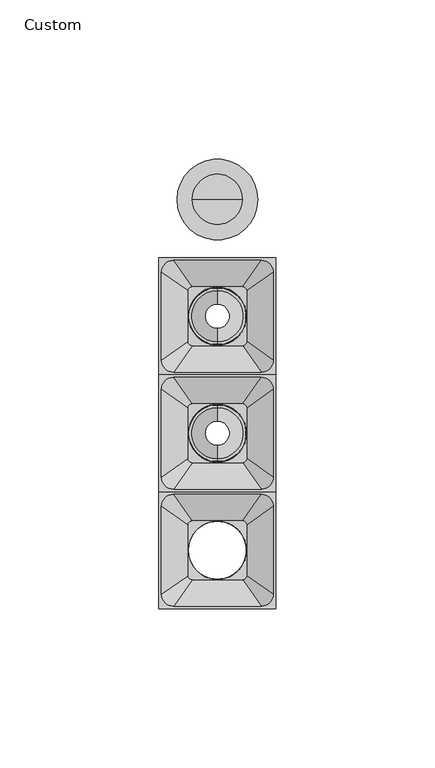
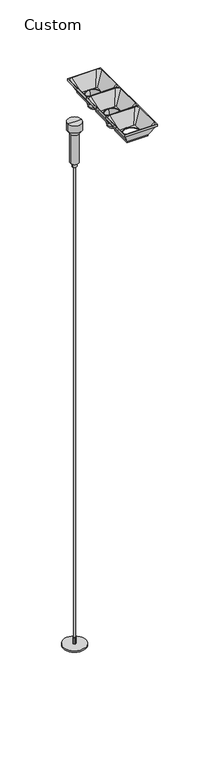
"""IFC4 building model written with IfcOpenShell, lengths in millimetres: light fixture geometry, Lighting-Pendant-Axis-Sculpt-Corner-MikroLite : Custom."""

from ifc_helpers import new_model, si_unit, point, frame, origin, origin_with_axes, origin_2d, place, context, project, spatial, polyline, circle_curve, ellipse_curve, trimmed, segment, composite_curve, outline, extrude, source, transform, mapped, element, save
from ifc_brep_helpers import plane_surface, cylinder_surface, revolved_surface, spline_surface, advanced_brep


def custom_41f16287(model_context):
    return source(origin(), model_context, "Body", "SolidModel", [
        advanced_brep(
        [(-4.5719999, 0.0, 604.4810805), (4.5719999, 0.0, 604.4810805), (4.5719999, 0.0, 570.5474987), (-4.5719999, 0.0, 570.5474987), (-7.8962633, 0.0, 609.6), (7.8962633, 0.0, 609.6), (-2.2859999, 0.0, 565.4674991), (2.2859999, 0.0, 565.4674991), (0.0, 0.0, 565.4674991), (-2.2859999, 0.0, 570.5474987), (2.2859999, 0.0, 570.5474987), (-7.8962633, 0.0, 618.0455013), (7.8962633, 0.0, 618.0455013), (0.0, 0.0, 618.0455013)],
        [
            (0, 1, circle_curve(frame((0.0, 0.0, 604.4810805), z_axis=(0.0, 0.0, -1.0), x_axis=(1.0, 0.0, 0.0)), 4.5719999)),
            (1, 2),
            (2, 3, circle_curve(frame((0.0, 0.0, 570.5474987), z_axis=(0.0, 0.0, 1.0), x_axis=(1.0, 0.0, 0.0)), 4.5719999)),
            (3, 0),
            (1, 0, circle_curve(frame((0.0, 0.0, 604.4810805), z_axis=(0.0, 0.0, -1.0), x_axis=(1.0, 0.0, 0.0)), 4.5719999)),
            (3, 2, circle_curve(frame((0.0, 0.0, 570.5474987), z_axis=(0.0, 0.0, 1.0), x_axis=(1.0, 0.0, 0.0)), 4.5719999)),
            (4, 5, circle_curve(frame((0.0, 0.0, 609.6), z_axis=(0.0, 0.0, -1.0), x_axis=(1.0, 0.0, 0.0)), 7.8962633)),
            (5, 1),
            (0, 4),
            (5, 4, circle_curve(frame((0.0, 0.0, 609.6), z_axis=(0.0, 0.0, -1.0), x_axis=(1.0, 0.0, 0.0)), 7.8962633)),
            (6, 7, circle_curve(frame((0.0, 0.0, 565.4674991), z_axis=(0.0, 0.0, -1.0), x_axis=(1.0, 0.0, 0.0)), 2.2859999)),
            (7, 8),
            (8, 6),
            (7, 6, circle_curve(frame((0.0, 0.0, 565.4674991), z_axis=(0.0, 0.0, -1.0), x_axis=(1.0, 0.0, 0.0)), 2.2859999)),
            (9, 10, circle_curve(frame((0.0, 0.0, 570.5474987), z_axis=(0.0, 0.0, -1.0), x_axis=(1.0, 0.0, 0.0)), 2.2859999)),
            (10, 7),
            (6, 9),
            (10, 9, circle_curve(frame((0.0, 0.0, 570.5474987), z_axis=(0.0, 0.0, -1.0), x_axis=(1.0, 0.0, 0.0)), 2.2859999)),
            (2, 10),
            (9, 3),
            (11, 12, circle_curve(frame((0.0, 0.0, 618.0455013), z_axis=(0.0, 0.0, -1.0), x_axis=(1.0, 0.0, 0.0)), 7.8962633)),
            (12, 5),
            (4, 11),
            (12, 11, circle_curve(frame((0.0, 0.0, 618.0455013), z_axis=(0.0, 0.0, -1.0), x_axis=(1.0, 0.0, 0.0)), 7.8962633)),
            (13, 12),
            (11, 13),
        ],
        [
            cylinder_surface(frame((0.0, 0.0, 2761.4581012), z_axis=(0.0, 0.0, 1.0), x_axis=(1.0, 0.0, 0.0)), 4.5719999),
            revolved_surface(polyline([(4.5719999, 0.0, 604.4810805), (7.8962633, 0.0, 609.6)]), (0.0, 0.0, 2761.4581012), (0.0, 0.0, 1.0)),
            plane_surface(frame((0.0, 0.0, 565.4674991), z_axis=(0.0, 0.0, -1.0), x_axis=(1.0, 0.0, 0.0))),
            cylinder_surface(frame((0.0, 0.0, 2761.4581012), z_axis=(0.0, 0.0, 1.0), x_axis=(1.0, 0.0, 0.0)), 2.2859999),
            plane_surface(frame((0.0, 0.0, 570.5474987), z_axis=(0.0, 0.0, -1.0), x_axis=(1.0, 0.0, 0.0))),
            cylinder_surface(frame((0.0, 0.0, 2761.4581012), z_axis=(0.0, 0.0, 1.0), x_axis=(1.0, 0.0, 0.0)), 7.8962633),
            plane_surface(frame((0.0, 0.0, 618.0455013), z_axis=(0.0, 0.0, 1.0), x_axis=(1.0, 0.0, 0.0))),
        ],
        [
            (0, [[1, 2, 3, 4]]),
            (0, [[5, -4, 6, -2]]),
            (1, [[7, 8, -1, 9]]),
            (1, [[10, -9, -5, -8]]),
            (2, [[11, 12, 13]]),
            (2, [[14, -13, -12]]),
            (3, [[15, 16, -11, 17]]),
            (3, [[18, -17, -14, -16]]),
            (4, [[-3, 19, -15, 20]]),
            (4, [[-6, -20, -18, -19]]),
            (5, [[21, 22, -7, 23]]),
            (5, [[24, -23, -10, -22]]),
            (6, [[25, -21, 26]]),
            (6, [[-26, -24, -25]]),
        ],
    ),
        extrude(outline(composite_curve([segment(trimmed(circle_curve(origin_2d(), 0.79375), [point((-0.79375, 0.0))], [point((0.79375, 0.0))], False, "CARTESIAN"), True, "CONTINUOUS"), segment(trimmed(circle_curve(origin_2d(), 0.79375), [point((0.79375, 0.0))], [point((-0.79375, 0.0))], False, "CARTESIAN"), True, "CONTINUOUS")], self_intersect=False)), origin_with_axes(), (0.0, 0.0, 1.0), 565.4674991),
        extrude(outline(composite_curve([segment(trimmed(circle_curve(origin_2d(), 12.7), [point((-12.7, 0.0))], [point((12.7, 0.0))], False, "CARTESIAN"), True, "CONTINUOUS"), segment(trimmed(circle_curve(origin_2d(), 12.7), [point((12.7, 0.0))], [point((-12.7, 0.0))], False, "CARTESIAN"), True, "CONTINUOUS")], self_intersect=False)), origin_with_axes(), (0.0, 0.0, 1.0), 1.5875),
        extrude(outline(composite_curve([segment(trimmed(circle_curve(origin_2d(), 1.5875), [point((-1.5875, 0.0))], [point((1.5875, 0.0))], False, "CARTESIAN"), True, "CONTINUOUS"), segment(trimmed(circle_curve(origin_2d(), 1.5875), [point((1.5875, 0.0))], [point((-1.5875, 0.0))], False, "CARTESIAN"), True, "CONTINUOUS")], self_intersect=False)), frame((0.0, 0.0, 1.5875), z_axis=(0.0, 0.0, 1.0), x_axis=(1.0, 0.0, 0.0)), (0.0, 0.0, 1.0), 7.9375),
        advanced_brep(
        [(-11.5702329, -62.0897671, 672.4768563), (-11.5702329, -62.0897671, 671.3885205), (-11.5702329, -85.2302329, 671.3885205), (-11.5702329, -85.2302329, 672.4768563), (-17.2355213, -90.8955213, 684.05375), (-17.2355213, -56.4244787, 684.05375), (-18.415, -55.245, 686.59375), (-18.415, -55.245, 684.05375), (-18.415, -92.075, 684.05375), (-18.415, -92.075, 686.59375), (11.5702329, -85.2302329, 671.3885205), (11.5702329, -85.2302329, 672.4768563), (17.2355213, -90.8955213, 684.05375), (18.415, -92.075, 684.05375), (18.415, -92.075, 686.59375), (11.5702329, -62.0897671, 671.3885205), (11.5702329, -62.0897671, 672.4768563), (17.2355213, -56.4244787, 684.05375), (18.415, -55.245, 684.05375), (18.415, -55.245, 686.59375), (-17.5895, -87.4395, 686.59375), (-17.5895, -59.8805, 686.59375), (-13.7795, -56.0705, 686.59375), (13.7795, -56.0705, 686.59375), (17.5895, -59.8805, 686.59375), (17.5895, -87.4395, 686.59375), (13.7795, -91.2495, 686.59375), (-13.7795, -91.2495, 686.59375), (0.0, -64.5153356, 671.3885205), (0.0, -82.8046644, 671.3885205), (-9.2138442, -81.6038442, 672.17925), (-7.9438442, -82.8738442, 672.17925), (0.0, -82.8738442, 672.17925), (-9.2138442, -73.66, 672.17925), (7.9438442, -82.8738442, 672.17925), (9.2138442, -81.6038442, 672.17925), (9.2138442, -73.66, 672.17925), (9.2138442, -65.7161558, 672.17925), (7.9438442, -64.4461558, 672.17925), (0.0, -64.4461558, 672.17925), (-7.9438442, -64.4461558, 672.17925), (-9.2138442, -65.7161558, 672.17925)],
        [
            (0, 1),
            (1, 2),
            (2, 3),
            (3, 0),
            (3, 4),
            (4, 5),
            (5, 0),
            (6, 7),
            (7, 8),
            (8, 9),
            (9, 6),
            (2, 10),
            (10, 11),
            (11, 3),
            (11, 12),
            (12, 4),
            (8, 13),
            (13, 14),
            (14, 9),
            (10, 15),
            (15, 16),
            (16, 11),
            (16, 17),
            (17, 12),
            (13, 18),
            (18, 19),
            (19, 14),
            (0, 16),
            (15, 1),
            (5, 17),
            (7, 18),
            (6, 19),
            (20, 21),
            (21, 22, circle_curve(frame((-13.7795, -59.8805, 686.59375), z_axis=(0.0, 0.0, -1.0), x_axis=(1.0, 0.0, 0.0)), 3.81)),
            (22, 23),
            (23, 24, circle_curve(frame((13.7795, -59.8805, 686.59375), z_axis=(0.0, 0.0, -1.0), x_axis=(1.0, 0.0, 0.0)), 3.81)),
            (24, 25),
            (25, 26, circle_curve(frame((13.7795, -87.4395, 686.59375), z_axis=(0.0, 0.0, -1.0), x_axis=(1.0, 0.0, 0.0)), 3.81)),
            (26, 27),
            (27, 20, circle_curve(frame((-13.7795, -87.4395, 686.59375), z_axis=(0.0, 0.0, -1.0), x_axis=(1.0, 0.0, 0.0)), 3.81)),
            (28, 29, circle_curve(frame((0.0, -73.66, 671.3885205), z_axis=(0.0, 0.0, 1.0), x_axis=(0.0, 1.0, 0.0)), 9.1446644)),
            (29, 28, circle_curve(frame((0.0, -73.66, 671.3885205), z_axis=(0.0, 0.0, 1.0), x_axis=(0.0, 1.0, 0.0)), 9.1446644)),
            (30, 31, circle_curve(frame((-7.9438442, -81.6038442, 672.17925), z_axis=(0.0, 0.0, 1.0), x_axis=(1.0, 0.0, 0.0)), 1.27)),
            (31, 32),
            (32, 33, circle_curve(frame((0.0, -73.66, 672.17925), z_axis=(0.0, 0.0, -1.0), x_axis=(0.0, 1.0, 0.0)), 9.2138442)),
            (33, 30),
            (34, 35, circle_curve(frame((7.9438442, -81.6038442, 672.17925), z_axis=(0.0, 0.0, 1.0), x_axis=(1.0, 0.0, 0.0)), 1.27)),
            (35, 36),
            (36, 32, circle_curve(frame((0.0, -73.66, 672.17925), z_axis=(0.0, 0.0, -1.0), x_axis=(0.0, 1.0, 0.0)), 9.2138442)),
            (32, 34),
            (37, 38, circle_curve(frame((7.9438442, -65.7161558, 672.17925), z_axis=(0.0, 0.0, 1.0), x_axis=(1.0, 0.0, 0.0)), 1.27)),
            (38, 39),
            (39, 36, circle_curve(frame((0.0, -73.66, 672.17925), z_axis=(0.0, 0.0, -1.0), x_axis=(0.0, 1.0, 0.0)), 9.2138442)),
            (36, 37),
            (40, 41, circle_curve(frame((-7.9438442, -65.7161558, 672.17925), z_axis=(0.0, 0.0, 1.0), x_axis=(1.0, 0.0, 0.0)), 1.27)),
            (41, 33),
            (33, 39, circle_curve(frame((0.0, -73.66, 672.17925), z_axis=(0.0, 0.0, -1.0), x_axis=(0.0, 1.0, 0.0)), 9.2138442)),
            (39, 40),
            (20, 30),
            (41, 21),
            (27, 31),
            (26, 34),
            (25, 35),
            (24, 37),
            (23, 38),
            (22, 40),
            (32, 29),
            (28, 39),
        ],
        [
            plane_surface(frame((-11.5702329, -62.0897671, 671.3885205), z_axis=(-1.0, 0.0, 0.0), x_axis=(0.0, -1.0, 0.0))),
            plane_surface(frame((-11.5702329, -62.0897671, 672.4768563), z_axis=(-0.8982167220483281, 0.0, -0.43955286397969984), x_axis=(0.0, -1.0, 0.0))),
            plane_surface(frame((-18.415, -55.245, 684.05375), z_axis=(-1.0, 0.0, 0.0), x_axis=(0.0, -1.0, 0.0))),
            plane_surface(frame((-11.5702329, -85.2302329, 671.3885205), z_axis=(0.0, -1.0, 0.0), x_axis=(1.0, 0.0, 0.0))),
            plane_surface(frame((-11.5702329, -85.2302329, 672.4768563), z_axis=(0.0, -0.8982167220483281, -0.43955286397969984), x_axis=(1.0, 0.0, 0.0))),
            plane_surface(frame((-18.415, -92.075, 684.05375), z_axis=(0.0, -1.0, 0.0), x_axis=(1.0, 0.0, 0.0))),
            plane_surface(frame((11.5702329, -85.2302329, 671.3885205), z_axis=(1.0, 0.0, 0.0), x_axis=(0.0, 1.0, 0.0))),
            plane_surface(frame((11.5702329, -85.2302329, 672.4768563), z_axis=(0.8982167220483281, 0.0, -0.43955286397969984), x_axis=(0.0, 1.0, 0.0))),
            plane_surface(frame((18.415, -92.075, 684.05375), z_axis=(1.0, 0.0, 0.0), x_axis=(0.0, 1.0, 0.0))),
            plane_surface(frame((11.5702329, -62.0897671, 671.3885205), z_axis=(0.0, 1.0, 0.0), x_axis=(-1.0, 0.0, 0.0))),
            plane_surface(frame((11.5702329, -62.0897671, 672.4768563), z_axis=(0.0, 0.8982167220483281, -0.43955286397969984), x_axis=(-1.0, 0.0, 0.0))),
            plane_surface(frame((17.2355213, -56.4244787, 684.05375), z_axis=(0.0, 0.0, -1.0), x_axis=(-1.0, 0.0, 0.0))),
            plane_surface(frame((18.415, -55.245, 684.05375), z_axis=(0.0, 1.0, 0.0), x_axis=(-1.0, 0.0, 0.0))),
            plane_surface(frame((18.415, -55.245, 686.59375), z_axis=(0.0, 0.0, 1.0), x_axis=(-1.0, 0.0, 0.0))),
            plane_surface(frame((0.0, -73.66, 671.3885205), z_axis=(0.0, 0.0, -1.0), x_axis=(-1.0, 0.0, 0.0))),
            plane_surface(frame((0.0, -73.66, 672.17925), z_axis=(0.0, 0.0, 1.0), x_axis=(0.0, -1.0, 0.0))),
            plane_surface(frame((-17.5895, -73.66, 686.59375), z_axis=(0.8646340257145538, 0.0, 0.5024022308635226), x_axis=(0.0, 1.0, 0.0))),
            spline_surface(1, 2, [[(-13.7795, -91.2495, 686.59375), (-17.5895, -91.2495, 686.59375), (-17.5895, -87.4395, 686.59375)], [(-7.9438442, -82.8738442, 672.17925), (-9.213844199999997, -82.8738442, 672.17925), (-9.2138442, -81.6038442, 672.17925)]], [2, 2], [3, 3], [0.0, 1.0], [0.0, 1.0], weights=[[1.0, 0.7071067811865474, 1.0], [1.0, 0.7071067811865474, 1.0]]),
            plane_surface(frame((0.0, -91.2495, 686.59375), z_axis=(0.0, 0.8646340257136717, 0.5024022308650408), x_axis=(-1.0, 0.0, 0.0))),
            spline_surface(1, 2, [[(17.5895, -87.4395, 686.59375), (17.5895, -91.2495, 686.59375), (13.7795, -91.2495, 686.59375)], [(9.2138442, -81.6038442, 672.17925), (9.2138442, -82.8738442, 672.17925), (7.9438442, -82.8738442, 672.17925)]], [2, 2], [3, 3], [0.0, 1.0], [0.0, 1.0], weights=[[1.0, 0.7071067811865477, 1.0], [1.0, 0.7071067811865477, 1.0]]),
            plane_surface(frame((17.5895, -73.66, 686.59375), z_axis=(-0.8646340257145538, 0.0, 0.5024022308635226), x_axis=(0.0, -1.0, 0.0))),
            spline_surface(1, 2, [[(13.7795, -56.0705, 686.59375), (17.589499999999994, -56.07050000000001, 686.59375), (17.5895, -59.8805, 686.59375)], [(7.9438442, -64.4461558, 672.17925), (9.213844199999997, -64.4461558, 672.17925), (9.2138442, -65.7161558, 672.17925)]], [2, 2], [3, 3], [0.0, 1.0], [0.0, 1.0], weights=[[1.0, 0.7071067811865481, 1.0], [1.0, 0.7071067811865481, 1.0]]),
            plane_surface(frame((0.0, -56.0705, 686.59375), z_axis=(0.0, -0.8646340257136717, 0.5024022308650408), x_axis=(1.0, 0.0, 0.0))),
            spline_surface(1, 2, [[(-17.5895, -59.8805, 686.59375), (-17.589500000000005, -56.070499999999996, 686.59375), (-13.7795, -56.0705, 686.59375)], [(-9.2138442, -65.7161558, 672.17925), (-9.213844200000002, -64.4461558, 672.17925), (-7.9438442, -64.4461558, 672.17925)]], [2, 2], [3, 3], [0.0, 1.0], [0.0, 1.0], weights=[[1.0, 0.707106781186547, 1.0], [1.0, 0.707106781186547, 1.0]]),
            revolved_surface(polyline([(0.0, -64.4461558, 672.17925), (0.0, -64.5153356, 671.3885205)]), (0.0, -73.66, 3030.4005443), (0.0, 0.0, 1.0)),
        ],
        [
            (0, [[1, 2, 3, 4]]),
            (1, [[-4, 5, 6, 7]]),
            (2, [[8, 9, 10, 11]]),
            (3, [[-3, 12, 13, 14]]),
            (4, [[-5, -14, 15, 16]]),
            (5, [[-10, 17, 18, 19]]),
            (6, [[-13, 20, 21, 22]]),
            (7, [[-15, -22, 23, 24]]),
            (8, [[-18, 25, 26, 27]]),
            (9, [[-1, 28, -21, 29]]),
            (10, [[-7, 30, -23, -28]]),
            (11, [[-9, 31, -25, -17], [-6, -16, -24, -30]]),
            (12, [[-8, 32, -26, -31]]),
            (13, [[-11, -19, -27, -32], [33, 34, 35, 36, 37, 38, 39, 40]]),
            (14, [[-2, -29, -20, -12], [41, 42]]),
            (15, [[43, 44, 45, 46]]),
            (15, [[47, 48, 49, 50]]),
            (15, [[51, 52, 53, 54]]),
            (15, [[55, 56, 57, 58]]),
            (16, [[59, -46, -56, 60, -33]]),
            (17, [[-43, -59, -40, 61]]),
            (18, [[-61, -39, 62, -50, -44]]),
            (19, [[-47, -62, -38, 63]]),
            (20, [[-63, -37, 64, -54, -48]]),
            (21, [[-51, -64, -36, 65]]),
            (22, [[-65, -35, 66, -58, -52]]),
            (23, [[-55, -66, -34, -60]]),
            (24, [[67, -41, 68, -57, -45]]),
            (24, [[-67, -49, -53, -68, -42]]),
        ],
    ),
        advanced_brep(
        [(0.0, -77.51, 658.77125), (0.0, -69.81, 658.77125), (0.0, -65.61, 672.47125), (0.0, -81.71, 672.47125), (0.0, -79.01, 658.77125), (0.0, -68.31, 658.77125), (0.0, -79.0465334, 660.012052), (0.0, -68.2734666, 660.012052), (0.0, -82.0859138, 669.87125), (0.0, -65.2340862, 669.87125), (0.0, -83.3960224, 669.87125), (0.0, -63.9239776, 669.87125), (0.0, -83.4586851, 671.3885205), (0.0, -63.8613149, 671.3885205), (0.0, -82.6649351, 671.3885205), (0.0, -64.6550649, 671.3885205), (0.0, -82.6460359, 672.47125), (0.0, -64.6739641, 672.47125)],
        [
            (0, 1, circle_curve(frame((0.0, -73.66, 658.77125), z_axis=(0.0, 0.0, -1.0), x_axis=(0.0, 1.0, 0.0)), 3.85)),
            (1, 2, circle_curve(frame((0.0, 116.9986551, 608.9952391), z_axis=(-1.0, 0.0, 0.0), x_axis=(0.0, -0.9662859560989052, 0.25747126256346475)), 193.3264722)),
            (2, 3, circle_curve(frame((0.0, -73.66, 672.47125), z_axis=(0.0, 0.0, 1.0), x_axis=(0.0, 1.0, 0.0)), 8.05)),
            (3, 0, circle_curve(frame((0.0, -264.3186551, 608.9952391), z_axis=(-1.0, 0.0, 0.0), x_axis=(0.0, 0.9662859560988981, 0.2574712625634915)), 193.3264722)),
            (1, 0, circle_curve(frame((0.0, -73.66, 658.77125), z_axis=(0.0, 0.0, -1.0), x_axis=(0.0, 1.0, 0.0)), 3.85)),
            (3, 2, circle_curve(frame((0.0, -73.66, 672.47125), z_axis=(0.0, 0.0, 1.0), x_axis=(0.0, 1.0, 0.0)), 8.05)),
            (4, 5, circle_curve(frame((0.0, -73.66, 658.77125), z_axis=(0.0, 0.0, -1.0), x_axis=(0.0, 1.0, 0.0)), 5.35)),
            (5, 1),
            (0, 4),
            (5, 4, circle_curve(frame((0.0, -73.66, 658.77125), z_axis=(0.0, 0.0, -1.0), x_axis=(0.0, 1.0, 0.0)), 5.35)),
            (6, 7, circle_curve(frame((0.0, -73.66, 660.012052), z_axis=(0.0, 0.0, -1.0), x_axis=(0.0, 1.0, 0.0)), 5.3865334)),
            (7, 5),
            (4, 6),
            (7, 6, circle_curve(frame((0.0, -73.66, 660.012052), z_axis=(0.0, 0.0, -1.0), x_axis=(0.0, 1.0, 0.0)), 5.3865334)),
            (8, 9, circle_curve(frame((0.0, -73.66, 669.87125), z_axis=(0.0, 0.0, -1.0), x_axis=(0.0, 1.0, 0.0)), 8.4259138)),
            (9, 7, circle_curve(frame((0.0, 104.6566089, 612.0994861), z_axis=(1.0, 0.0, 0.0), x_axis=(0.0, -0.9467575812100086, 0.32194732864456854)), 179.4447686)),
            (6, 8, circle_curve(frame((0.0, -251.9766089, 612.0994861), z_axis=(1.0, 0.0, 0.0), x_axis=(0.0, 0.9467575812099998, 0.32194732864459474)), 179.4447686)),
            (9, 8, circle_curve(frame((0.0, -73.66, 669.87125), z_axis=(0.0, 0.0, -1.0), x_axis=(0.0, 1.0, 0.0)), 8.4259138)),
            (10, 11, circle_curve(frame((0.0, -73.66, 669.87125), z_axis=(0.0, 0.0, -1.0), x_axis=(0.0, 1.0, 0.0)), 9.7360224)),
            (11, 9),
            (8, 10),
            (11, 10, circle_curve(frame((0.0, -73.66, 669.87125), z_axis=(0.0, 0.0, -1.0), x_axis=(0.0, 1.0, 0.0)), 9.7360224)),
            (12, 13, circle_curve(frame((0.0, -73.66, 671.3885205), z_axis=(0.0, 0.0, -1.0), x_axis=(0.0, 1.0, 0.0)), 9.7986851)),
            (13, 11),
            (10, 12),
            (13, 12, circle_curve(frame((0.0, -73.66, 671.3885205), z_axis=(0.0, 0.0, -1.0), x_axis=(0.0, 1.0, 0.0)), 9.7986851)),
            (14, 15, circle_curve(frame((0.0, -73.66, 671.3885205), z_axis=(0.0, 0.0, -1.0), x_axis=(0.0, 1.0, 0.0)), 9.0049351)),
            (15, 13),
            (12, 14),
            (15, 14, circle_curve(frame((0.0, -73.66, 671.3885205), z_axis=(0.0, 0.0, -1.0), x_axis=(0.0, 1.0, 0.0)), 9.0049351)),
            (16, 17, circle_curve(frame((0.0, -73.66, 672.47125), z_axis=(0.0, 0.0, -1.0), x_axis=(0.0, 1.0, 0.0)), 8.9860359)),
            (17, 15),
            (14, 16),
            (17, 16, circle_curve(frame((0.0, -73.66, 672.47125), z_axis=(0.0, 0.0, -1.0), x_axis=(0.0, 1.0, 0.0)), 8.9860359)),
            (2, 17),
            (16, 3),
        ],
        [
            revolved_surface(trimmed(ellipse_curve(frame((0.0, 116.9986551, 608.9952391), z_axis=(1.0, 0.0, 0.0), x_axis=(0.0, -0.9662859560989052, 0.25747126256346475)), 193.3264722, 193.3264722), [point((0.0, -65.61, 672.47125))], [point((0.0, -69.81, 658.77125))], True, "CARTESIAN"), (0.0, -73.66, 3030.4005443), (0.0, 0.0, 1.0)),
            plane_surface(frame((0.0, -73.66, 658.77125), z_axis=(0.0, 0.0, -1.0), x_axis=(0.0, 1.0, 0.0))),
            revolved_surface(polyline([(0.0, -68.31, 658.77125), (0.0, -68.2734666, 660.012052)]), (0.0, -73.66, 3030.4005443), (0.0, 0.0, 1.0)),
            revolved_surface(trimmed(ellipse_curve(frame((0.0, 104.6566089, 612.0994861), z_axis=(-1.0, 0.0, 0.0), x_axis=(0.0, -0.9467575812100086, 0.32194732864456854)), 179.4447686, 179.4447686), [point((0.0, -68.2734666, 660.012052))], [point((0.0, -65.2340862, 669.87125))], True, "CARTESIAN"), (0.0, -73.66, 3030.4005443), (0.0, 0.0, 1.0)),
            plane_surface(frame((0.0, -73.66, 669.87125), z_axis=(0.0, 0.0, -1.0), x_axis=(0.0, 1.0, 0.0))),
            revolved_surface(polyline([(0.0, -63.9239776, 669.87125), (0.0, -63.8613149, 671.3885205)]), (0.0, -73.66, 3030.4005443), (0.0, 0.0, 1.0)),
            plane_surface(frame((0.0, -73.66, 671.3885205), z_axis=(0.0, 0.0, 1.0), x_axis=(0.0, 1.0, 0.0))),
            revolved_surface(polyline([(0.0, -64.6550649, 671.3885205), (0.0, -64.6739641, 672.47125)]), (0.0, -73.66, 3030.4005443), (0.0, 0.0, 1.0)),
            plane_surface(frame((0.0, -73.66, 672.47125), z_axis=(0.0, 0.0, 1.0), x_axis=(0.0, 1.0, 0.0))),
        ],
        [
            (0, [[1, 2, 3, 4]]),
            (0, [[5, -4, 6, -2]]),
            (1, [[7, 8, -1, 9]]),
            (1, [[10, -9, -5, -8]]),
            (2, [[11, 12, -7, 13]]),
            (2, [[14, -13, -10, -12]]),
            (3, [[15, 16, -11, 17]]),
            (3, [[18, -17, -14, -16]]),
            (4, [[19, 20, -15, 21]]),
            (4, [[22, -21, -18, -20]]),
            (5, [[23, 24, -19, 25]]),
            (5, [[26, -25, -22, -24]]),
            (6, [[27, 28, -23, 29]]),
            (6, [[30, -29, -26, -28]]),
            (7, [[31, 32, -27, 33]]),
            (7, [[34, -33, -30, -32]]),
            (8, [[-3, 35, -31, 36]]),
            (8, [[-6, -36, -34, -35]]),
        ],
    ),
        advanced_brep(
        [(-11.5702329, -25.2597671, 672.4768563), (-11.5702329, -25.2597671, 671.3885205), (-11.5702329, -48.4002329, 671.3885205), (-11.5702329, -48.4002329, 672.4768563), (-17.2355213, -54.0655213, 684.05375), (-17.2355213, -19.5944787, 684.05375), (-18.415, -18.415, 686.59375), (-18.415, -18.415, 684.05375), (-18.415, -55.245, 684.05375), (-18.415, -55.245, 686.59375), (11.5702329, -48.4002329, 671.3885205), (11.5702329, -48.4002329, 672.4768563), (17.2355213, -54.0655213, 684.05375), (18.415, -55.245, 684.05375), (18.415, -55.245, 686.59375), (11.5702329, -25.2597671, 671.3885205), (11.5702329, -25.2597671, 672.4768563), (17.2355213, -19.5944787, 684.05375), (18.415, -18.415, 684.05375), (18.415, -18.415, 686.59375), (-17.5895, -50.6095, 686.59375), (-17.5895, -23.0505, 686.59375), (-13.7795, -19.2405, 686.59375), (13.7795, -19.2405, 686.59375), (17.5895, -23.0505, 686.59375), (17.5895, -50.6095, 686.59375), (13.7795, -54.4195, 686.59375), (-13.7795, -54.4195, 686.59375), (0.0, -27.6853356, 671.3885205), (0.0, -45.9746644, 671.3885205), (-9.2138442, -44.7738442, 672.17925), (-7.9438442, -46.0438442, 672.17925), (0.0, -46.0438442, 672.17925), (-9.2138442, -36.83, 672.17925), (7.9438442, -46.0438442, 672.17925), (9.2138442, -44.7738442, 672.17925), (9.2138442, -36.83, 672.17925), (9.2138442, -28.8861558, 672.17925), (7.9438442, -27.6161558, 672.17925), (0.0, -27.6161558, 672.17925), (-7.9438442, -27.6161558, 672.17925), (-9.2138442, -28.8861558, 672.17925)],
        [
            (0, 1),
            (1, 2),
            (2, 3),
            (3, 0),
            (3, 4),
            (4, 5),
            (5, 0),
            (6, 7),
            (7, 8),
            (8, 9),
            (9, 6),
            (2, 10),
            (10, 11),
            (11, 3),
            (11, 12),
            (12, 4),
            (8, 13),
            (13, 14),
            (14, 9),
            (10, 15),
            (15, 16),
            (16, 11),
            (16, 17),
            (17, 12),
            (13, 18),
            (18, 19),
            (19, 14),
            (0, 16),
            (15, 1),
            (5, 17),
            (7, 18),
            (6, 19),
            (20, 21),
            (21, 22, circle_curve(frame((-13.7795, -23.0505, 686.59375), z_axis=(0.0, 0.0, -1.0), x_axis=(1.0, 0.0, 0.0)), 3.81)),
            (22, 23),
            (23, 24, circle_curve(frame((13.7795, -23.0505, 686.59375), z_axis=(0.0, 0.0, -1.0), x_axis=(1.0, 0.0, 0.0)), 3.81)),
            (24, 25),
            (25, 26, circle_curve(frame((13.7795, -50.6095, 686.59375), z_axis=(0.0, 0.0, -1.0), x_axis=(1.0, 0.0, 0.0)), 3.81)),
            (26, 27),
            (27, 20, circle_curve(frame((-13.7795, -50.6095, 686.59375), z_axis=(0.0, 0.0, -1.0), x_axis=(1.0, 0.0, 0.0)), 3.81)),
            (28, 29, circle_curve(frame((0.0, -36.83, 671.3885205), z_axis=(0.0, 0.0, 1.0), x_axis=(0.0, 1.0, 0.0)), 9.1446644)),
            (29, 28, circle_curve(frame((0.0, -36.83, 671.3885205), z_axis=(0.0, 0.0, 1.0), x_axis=(0.0, 1.0, 0.0)), 9.1446644)),
            (30, 31, circle_curve(frame((-7.9438442, -44.7738442, 672.17925), z_axis=(0.0, 0.0, 1.0), x_axis=(1.0, 0.0, 0.0)), 1.27)),
            (31, 32),
            (32, 33, circle_curve(frame((0.0, -36.83, 672.17925), z_axis=(0.0, 0.0, -1.0), x_axis=(0.0, 1.0, 0.0)), 9.2138442)),
            (33, 30),
            (34, 35, circle_curve(frame((7.9438442, -44.7738442, 672.17925), z_axis=(0.0, 0.0, 1.0), x_axis=(1.0, 0.0, 0.0)), 1.27)),
            (35, 36),
            (36, 32, circle_curve(frame((0.0, -36.83, 672.17925), z_axis=(0.0, 0.0, -1.0), x_axis=(0.0, 1.0, 0.0)), 9.2138442)),
            (32, 34),
            (37, 38, circle_curve(frame((7.9438442, -28.8861558, 672.17925), z_axis=(0.0, 0.0, 1.0), x_axis=(1.0, 0.0, 0.0)), 1.27)),
            (38, 39),
            (39, 36, circle_curve(frame((0.0, -36.83, 672.17925), z_axis=(0.0, 0.0, -1.0), x_axis=(0.0, 1.0, 0.0)), 9.2138442)),
            (36, 37),
            (40, 41, circle_curve(frame((-7.9438442, -28.8861558, 672.17925), z_axis=(0.0, 0.0, 1.0), x_axis=(1.0, 0.0, 0.0)), 1.27)),
            (41, 33),
            (33, 39, circle_curve(frame((0.0, -36.83, 672.17925), z_axis=(0.0, 0.0, -1.0), x_axis=(0.0, 1.0, 0.0)), 9.2138442)),
            (39, 40),
            (20, 30),
            (41, 21),
            (27, 31),
            (26, 34),
            (25, 35),
            (24, 37),
            (23, 38),
            (22, 40),
            (32, 29),
            (28, 39),
        ],
        [
            plane_surface(frame((-11.5702329, -25.2597671, 671.3885205), z_axis=(-1.0, 0.0, 0.0), x_axis=(0.0, -1.0, 0.0))),
            plane_surface(frame((-11.5702329, -25.2597671, 672.4768563), z_axis=(-0.8982167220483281, 0.0, -0.43955286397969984), x_axis=(0.0, -1.0, 0.0))),
            plane_surface(frame((-18.415, -18.415, 684.05375), z_axis=(-1.0, 0.0, 0.0), x_axis=(0.0, -1.0, 0.0))),
            plane_surface(frame((-11.5702329, -48.4002329, 671.3885205), z_axis=(0.0, -1.0, 0.0), x_axis=(1.0, 0.0, 0.0))),
            plane_surface(frame((-11.5702329, -48.4002329, 672.4768563), z_axis=(0.0, -0.8982167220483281, -0.43955286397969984), x_axis=(1.0, 0.0, 0.0))),
            plane_surface(frame((-18.415, -55.245, 684.05375), z_axis=(0.0, -1.0, 0.0), x_axis=(1.0, 0.0, 0.0))),
            plane_surface(frame((11.5702329, -48.4002329, 671.3885205), z_axis=(1.0, 0.0, 0.0), x_axis=(0.0, 1.0, 0.0))),
            plane_surface(frame((11.5702329, -48.4002329, 672.4768563), z_axis=(0.8982167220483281, 0.0, -0.43955286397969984), x_axis=(0.0, 1.0, 0.0))),
            plane_surface(frame((18.415, -55.245, 684.05375), z_axis=(1.0, 0.0, 0.0), x_axis=(0.0, 1.0, 0.0))),
            plane_surface(frame((11.5702329, -25.2597671, 671.3885205), z_axis=(0.0, 1.0, 0.0), x_axis=(-1.0, 0.0, 0.0))),
            plane_surface(frame((11.5702329, -25.2597671, 672.4768563), z_axis=(0.0, 0.8982167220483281, -0.43955286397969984), x_axis=(-1.0, 0.0, 0.0))),
            plane_surface(frame((17.2355213, -19.5944787, 684.05375), z_axis=(0.0, 0.0, -1.0), x_axis=(-1.0, 0.0, 0.0))),
            plane_surface(frame((18.415, -18.415, 684.05375), z_axis=(0.0, 1.0, 0.0), x_axis=(-1.0, 0.0, 0.0))),
            plane_surface(frame((18.415, -18.415, 686.59375), z_axis=(0.0, 0.0, 1.0), x_axis=(-1.0, 0.0, 0.0))),
            plane_surface(frame((0.0, -36.83, 671.3885205), z_axis=(0.0, 0.0, -1.0), x_axis=(-1.0, 0.0, 0.0))),
            plane_surface(frame((0.0, -36.83, 672.17925), z_axis=(0.0, 0.0, 1.0), x_axis=(0.0, -1.0, 0.0))),
            plane_surface(frame((-17.5895, -36.83, 686.59375), z_axis=(0.8646340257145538, 0.0, 0.5024022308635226), x_axis=(0.0, 1.0, 0.0))),
            spline_surface(1, 2, [[(-13.7795, -54.4195, 686.59375), (-17.5895, -54.4195, 686.59375), (-17.5895, -50.6095, 686.59375)], [(-7.9438442, -46.0438442, 672.17925), (-9.213844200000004, -46.0438442, 672.17925), (-9.2138442, -44.7738442, 672.17925)]], [2, 2], [3, 3], [0.0, 1.0], [0.0, 1.0], weights=[[1.0, 0.7071067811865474, 1.0], [1.0, 0.7071067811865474, 1.0]]),
            plane_surface(frame((0.0, -54.4195, 686.59375), z_axis=(0.0, 0.8646340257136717, 0.5024022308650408), x_axis=(-1.0, 0.0, 0.0))),
            spline_surface(1, 2, [[(17.5895, -50.6095, 686.59375), (17.5895, -54.4195, 686.59375), (13.7795, -54.4195, 686.59375)], [(9.2138442, -44.7738442, 672.17925), (9.2138442, -46.0438442, 672.17925), (7.9438442, -46.0438442, 672.17925)]], [2, 2], [3, 3], [0.0, 1.0], [0.0, 1.0], weights=[[1.0, 0.7071067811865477, 1.0], [1.0, 0.7071067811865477, 1.0]]),
            plane_surface(frame((17.5895, -36.83, 686.59375), z_axis=(-0.8646340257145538, 0.0, 0.5024022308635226), x_axis=(0.0, -1.0, 0.0))),
            spline_surface(1, 2, [[(13.7795, -19.2405, 686.59375), (17.5895, -19.240500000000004, 686.59375), (17.5895, -23.0505, 686.59375)], [(7.9438442, -27.6161558, 672.17925), (9.2138442, -27.6161558, 672.17925), (9.2138442, -28.8861558, 672.17925)]], [2, 2], [3, 3], [0.0, 1.0], [0.0, 1.0], weights=[[1.0, 0.7071067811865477, 1.0], [1.0, 0.7071067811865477, 1.0]]),
            plane_surface(frame((0.0, -19.2405, 686.59375), z_axis=(0.0, -0.8646340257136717, 0.5024022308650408), x_axis=(1.0, 0.0, 0.0))),
            spline_surface(1, 2, [[(-17.5895, -23.0505, 686.59375), (-17.5895, -19.240499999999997, 686.59375), (-13.7795, -19.2405, 686.59375)], [(-9.2138442, -28.8861558, 672.17925), (-9.2138442, -27.6161558, 672.17925), (-7.9438442, -27.6161558, 672.17925)]], [2, 2], [3, 3], [0.0, 1.0], [0.0, 1.0], weights=[[1.0, 0.7071067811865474, 1.0], [1.0, 0.7071067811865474, 1.0]]),
            revolved_surface(polyline([(0.0, -27.6161558, 672.17925), (0.0, -27.6853356, 671.3885205)]), (0.0, -36.83, 3030.4005443), (0.0, 0.0, 1.0)),
        ],
        [
            (0, [[1, 2, 3, 4]]),
            (1, [[-4, 5, 6, 7]]),
            (2, [[8, 9, 10, 11]]),
            (3, [[-3, 12, 13, 14]]),
            (4, [[-5, -14, 15, 16]]),
            (5, [[-10, 17, 18, 19]]),
            (6, [[-13, 20, 21, 22]]),
            (7, [[-15, -22, 23, 24]]),
            (8, [[-18, 25, 26, 27]]),
            (9, [[-1, 28, -21, 29]]),
            (10, [[-7, 30, -23, -28]]),
            (11, [[-9, 31, -25, -17], [-6, -16, -24, -30]]),
            (12, [[-8, 32, -26, -31]]),
            (13, [[-11, -19, -27, -32], [33, 34, 35, 36, 37, 38, 39, 40]]),
            (14, [[-2, -29, -20, -12], [41, 42]]),
            (15, [[43, 44, 45, 46]]),
            (15, [[47, 48, 49, 50]]),
            (15, [[51, 52, 53, 54]]),
            (15, [[55, 56, 57, 58]]),
            (16, [[59, -46, -56, 60, -33]]),
            (17, [[-43, -59, -40, 61]]),
            (18, [[-61, -39, 62, -50, -44]]),
            (19, [[-47, -62, -38, 63]]),
            (20, [[-63, -37, 64, -54, -48]]),
            (21, [[-51, -64, -36, 65]]),
            (22, [[-65, -35, 66, -58, -52]]),
            (23, [[-55, -66, -34, -60]]),
            (24, [[67, -41, 68, -57, -45]]),
            (24, [[-67, -49, -53, -68, -42]]),
        ],
    ),
        advanced_brep(
        [(0.0, -40.68, 658.77125), (0.0, -32.98, 658.77125), (0.0, -28.78, 672.47125), (0.0, -44.88, 672.47125), (0.0, -42.18, 658.77125), (0.0, -31.48, 658.77125), (0.0, -42.2165334, 660.012052), (0.0, -31.4434666, 660.012052), (0.0, -45.2559138, 669.87125), (0.0, -28.4040862, 669.87125), (0.0, -46.5660224, 669.87125), (0.0, -27.0939776, 669.87125), (0.0, -46.6286851, 671.3885205), (0.0, -27.0313149, 671.3885205), (0.0, -45.8349351, 671.3885205), (0.0, -27.8250649, 671.3885205), (0.0, -45.8160359, 672.47125), (0.0, -27.8439641, 672.47125)],
        [
            (0, 1, circle_curve(frame((0.0, -36.83, 658.77125), z_axis=(0.0, 0.0, -1.0), x_axis=(0.0, 1.0, 0.0)), 3.85)),
            (1, 2, circle_curve(frame((0.0, 153.8286551, 608.9952391), z_axis=(-1.0, 0.0, 0.0), x_axis=(0.0, -0.9662859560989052, 0.25747126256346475)), 193.3264722)),
            (2, 3, circle_curve(frame((0.0, -36.83, 672.47125), z_axis=(0.0, 0.0, 1.0), x_axis=(0.0, 1.0, 0.0)), 8.05)),
            (3, 0, circle_curve(frame((0.0, -227.4886551, 608.9952391), z_axis=(-1.0, 0.0, 0.0), x_axis=(0.0, 0.9662859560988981, 0.2574712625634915)), 193.3264722)),
            (1, 0, circle_curve(frame((0.0, -36.83, 658.77125), z_axis=(0.0, 0.0, -1.0), x_axis=(0.0, 1.0, 0.0)), 3.85)),
            (3, 2, circle_curve(frame((0.0, -36.83, 672.47125), z_axis=(0.0, 0.0, 1.0), x_axis=(0.0, 1.0, 0.0)), 8.05)),
            (4, 5, circle_curve(frame((0.0, -36.83, 658.77125), z_axis=(0.0, 0.0, -1.0), x_axis=(0.0, 1.0, 0.0)), 5.35)),
            (5, 1),
            (0, 4),
            (5, 4, circle_curve(frame((0.0, -36.83, 658.77125), z_axis=(0.0, 0.0, -1.0), x_axis=(0.0, 1.0, 0.0)), 5.35)),
            (6, 7, circle_curve(frame((0.0, -36.83, 660.012052), z_axis=(0.0, 0.0, -1.0), x_axis=(0.0, 1.0, 0.0)), 5.3865334)),
            (7, 5),
            (4, 6),
            (7, 6, circle_curve(frame((0.0, -36.83, 660.012052), z_axis=(0.0, 0.0, -1.0), x_axis=(0.0, 1.0, 0.0)), 5.3865334)),
            (8, 9, circle_curve(frame((0.0, -36.83, 669.87125), z_axis=(0.0, 0.0, -1.0), x_axis=(0.0, 1.0, 0.0)), 8.4259138)),
            (9, 7, circle_curve(frame((0.0, 141.4866089, 612.0994861), z_axis=(1.0, 0.0, 0.0), x_axis=(0.0, -0.9467575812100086, 0.32194732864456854)), 179.4447686)),
            (6, 8, circle_curve(frame((0.0, -215.1466089, 612.0994861), z_axis=(1.0, 0.0, 0.0), x_axis=(0.0, 0.9467575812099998, 0.32194732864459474)), 179.4447686)),
            (9, 8, circle_curve(frame((0.0, -36.83, 669.87125), z_axis=(0.0, 0.0, -1.0), x_axis=(0.0, 1.0, 0.0)), 8.4259138)),
            (10, 11, circle_curve(frame((0.0, -36.83, 669.87125), z_axis=(0.0, 0.0, -1.0), x_axis=(0.0, 1.0, 0.0)), 9.7360224)),
            (11, 9),
            (8, 10),
            (11, 10, circle_curve(frame((0.0, -36.83, 669.87125), z_axis=(0.0, 0.0, -1.0), x_axis=(0.0, 1.0, 0.0)), 9.7360224)),
            (12, 13, circle_curve(frame((0.0, -36.83, 671.3885205), z_axis=(0.0, 0.0, -1.0), x_axis=(0.0, 1.0, 0.0)), 9.7986851)),
            (13, 11),
            (10, 12),
            (13, 12, circle_curve(frame((0.0, -36.83, 671.3885205), z_axis=(0.0, 0.0, -1.0), x_axis=(0.0, 1.0, 0.0)), 9.7986851)),
            (14, 15, circle_curve(frame((0.0, -36.83, 671.3885205), z_axis=(0.0, 0.0, -1.0), x_axis=(0.0, 1.0, 0.0)), 9.0049351)),
            (15, 13),
            (12, 14),
            (15, 14, circle_curve(frame((0.0, -36.83, 671.3885205), z_axis=(0.0, 0.0, -1.0), x_axis=(0.0, 1.0, 0.0)), 9.0049351)),
            (16, 17, circle_curve(frame((0.0, -36.83, 672.47125), z_axis=(0.0, 0.0, -1.0), x_axis=(0.0, 1.0, 0.0)), 8.9860359)),
            (17, 15),
            (14, 16),
            (17, 16, circle_curve(frame((0.0, -36.83, 672.47125), z_axis=(0.0, 0.0, -1.0), x_axis=(0.0, 1.0, 0.0)), 8.9860359)),
            (2, 17),
            (16, 3),
        ],
        [
            revolved_surface(trimmed(ellipse_curve(frame((0.0, 153.8286551, 608.9952391), z_axis=(1.0, 0.0, 0.0), x_axis=(0.0, -0.9662859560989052, 0.25747126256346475)), 193.3264722, 193.3264722), [point((0.0, -28.78, 672.47125))], [point((0.0, -32.98, 658.77125))], True, "CARTESIAN"), (0.0, -36.83, 3030.4005443), (0.0, 0.0, 1.0)),
            plane_surface(frame((0.0, -36.83, 658.77125), z_axis=(0.0, 0.0, -1.0), x_axis=(0.0, 1.0, 0.0))),
            revolved_surface(polyline([(0.0, -31.48, 658.77125), (0.0, -31.4434666, 660.012052)]), (0.0, -36.83, 3030.4005443), (0.0, 0.0, 1.0)),
            revolved_surface(trimmed(ellipse_curve(frame((0.0, 141.4866089, 612.0994861), z_axis=(-1.0, 0.0, 0.0), x_axis=(0.0, -0.9467575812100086, 0.32194732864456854)), 179.4447686, 179.4447686), [point((0.0, -31.4434666, 660.012052))], [point((0.0, -28.4040862, 669.87125))], True, "CARTESIAN"), (0.0, -36.83, 3030.4005443), (0.0, 0.0, 1.0)),
            plane_surface(frame((0.0, -36.83, 669.87125), z_axis=(0.0, 0.0, -1.0), x_axis=(0.0, 1.0, 0.0))),
            revolved_surface(polyline([(0.0, -27.0939776, 669.87125), (0.0, -27.0313149, 671.3885205)]), (0.0, -36.83, 3030.4005443), (0.0, 0.0, 1.0)),
            plane_surface(frame((0.0, -36.83, 671.3885205), z_axis=(0.0, 0.0, 1.0), x_axis=(0.0, 1.0, 0.0))),
            revolved_surface(polyline([(0.0, -27.8250649, 671.3885205), (0.0, -27.8439641, 672.47125)]), (0.0, -36.83, 3030.4005443), (0.0, 0.0, 1.0)),
            plane_surface(frame((0.0, -36.83, 672.47125), z_axis=(0.0, 0.0, 1.0), x_axis=(0.0, 1.0, 0.0))),
        ],
        [
            (0, [[1, 2, 3, 4]]),
            (0, [[5, -4, 6, -2]]),
            (1, [[7, 8, -1, 9]]),
            (1, [[10, -9, -5, -8]]),
            (2, [[11, 12, -7, 13]]),
            (2, [[14, -13, -10, -12]]),
            (3, [[15, 16, -11, 17]]),
            (3, [[18, -17, -14, -16]]),
            (4, [[19, 20, -15, 21]]),
            (4, [[22, -21, -18, -20]]),
            (5, [[23, 24, -19, 25]]),
            (5, [[26, -25, -22, -24]]),
            (6, [[27, 28, -23, 29]]),
            (6, [[30, -29, -26, -28]]),
            (7, [[31, 32, -27, 33]]),
            (7, [[34, -33, -30, -32]]),
            (8, [[-3, 35, -31, 36]]),
            (8, [[-6, -36, -34, -35]]),
        ],
    ),
        advanced_brep(
        [(-11.5702329, -98.9197671, 672.4768563), (-11.5702329, -98.9197671, 671.3885205), (-11.5702329, -122.0602329, 671.3885205), (-11.5702329, -122.0602329, 672.4768563), (-17.2355213, -127.7255213, 684.05375), (-17.2355213, -93.2544787, 684.05375), (-18.415, -92.075, 686.59375), (-18.415, -92.075, 684.05375), (-18.415, -128.905, 684.05375), (-18.415, -128.905, 686.59375), (11.5702329, -122.0602329, 671.3885205), (11.5702329, -122.0602329, 672.4768563), (17.2355213, -127.7255213, 684.05375), (18.415, -128.905, 684.05375), (18.415, -128.905, 686.59375), (11.5702329, -98.9197671, 671.3885205), (11.5702329, -98.9197671, 672.4768563), (17.2355213, -93.2544787, 684.05375), (18.415, -92.075, 684.05375), (18.415, -92.075, 686.59375), (-17.5895, -124.2695, 686.59375), (-17.5895, -96.7105, 686.59375), (-13.7795, -92.9005, 686.59375), (13.7795, -92.9005, 686.59375), (17.5895, -96.7105, 686.59375), (17.5895, -124.2695, 686.59375), (13.7795, -128.0795, 686.59375), (-13.7795, -128.0795, 686.59375), (0.0, -101.3453356, 671.3885205), (0.0, -119.6346644, 671.3885205), (-9.2138442, -118.4338442, 672.17925), (-7.9438442, -119.7038442, 672.17925), (0.0, -119.7038442, 672.17925), (-9.2138442, -110.49, 672.17925), (7.9438442, -119.7038442, 672.17925), (9.2138442, -118.4338442, 672.17925), (9.2138442, -110.49, 672.17925), (9.2138442, -102.5461558, 672.17925), (7.9438442, -101.2761558, 672.17925), (0.0, -101.2761558, 672.17925), (-7.9438442, -101.2761558, 672.17925), (-9.2138442, -102.5461558, 672.17925)],
        [
            (0, 1),
            (1, 2),
            (2, 3),
            (3, 0),
            (3, 4),
            (4, 5),
            (5, 0),
            (6, 7),
            (7, 8),
            (8, 9),
            (9, 6),
            (2, 10),
            (10, 11),
            (11, 3),
            (11, 12),
            (12, 4),
            (8, 13),
            (13, 14),
            (14, 9),
            (10, 15),
            (15, 16),
            (16, 11),
            (16, 17),
            (17, 12),
            (13, 18),
            (18, 19),
            (19, 14),
            (0, 16),
            (15, 1),
            (5, 17),
            (7, 18),
            (6, 19),
            (20, 21),
            (21, 22, circle_curve(frame((-13.7795, -96.7105, 686.59375), z_axis=(0.0, 0.0, -1.0), x_axis=(1.0, 0.0, 0.0)), 3.81)),
            (22, 23),
            (23, 24, circle_curve(frame((13.7795, -96.7105, 686.59375), z_axis=(0.0, 0.0, -1.0), x_axis=(1.0, 0.0, 0.0)), 3.81)),
            (24, 25),
            (25, 26, circle_curve(frame((13.7795, -124.2695, 686.59375), z_axis=(0.0, 0.0, -1.0), x_axis=(1.0, 0.0, 0.0)), 3.81)),
            (26, 27),
            (27, 20, circle_curve(frame((-13.7795, -124.2695, 686.59375), z_axis=(0.0, 0.0, -1.0), x_axis=(1.0, 0.0, 0.0)), 3.81)),
            (28, 29, circle_curve(frame((0.0, -110.49, 671.3885205), z_axis=(0.0, 0.0, 1.0), x_axis=(0.0, 1.0, 0.0)), 9.1446644)),
            (29, 28, circle_curve(frame((0.0, -110.49, 671.3885205), z_axis=(0.0, 0.0, 1.0), x_axis=(0.0, 1.0, 0.0)), 9.1446644)),
            (30, 31, circle_curve(frame((-7.9438442, -118.4338442, 672.17925), z_axis=(0.0, 0.0, 1.0), x_axis=(1.0, 0.0, 0.0)), 1.27)),
            (31, 32),
            (32, 33, circle_curve(frame((0.0, -110.49, 672.17925), z_axis=(0.0, 0.0, -1.0), x_axis=(0.0, 1.0, 0.0)), 9.2138442)),
            (33, 30),
            (34, 35, circle_curve(frame((7.9438442, -118.4338442, 672.17925), z_axis=(0.0, 0.0, 1.0), x_axis=(1.0, 0.0, 0.0)), 1.27)),
            (35, 36),
            (36, 32, circle_curve(frame((0.0, -110.49, 672.17925), z_axis=(0.0, 0.0, -1.0), x_axis=(0.0, 1.0, 0.0)), 9.2138442)),
            (32, 34),
            (37, 38, circle_curve(frame((7.9438442, -102.5461558, 672.17925), z_axis=(0.0, 0.0, 1.0), x_axis=(1.0, 0.0, 0.0)), 1.27)),
            (38, 39),
            (39, 36, circle_curve(frame((0.0, -110.49, 672.17925), z_axis=(0.0, 0.0, -1.0), x_axis=(0.0, 1.0, 0.0)), 9.2138442)),
            (36, 37),
            (40, 41, circle_curve(frame((-7.9438442, -102.5461558, 672.17925), z_axis=(0.0, 0.0, 1.0), x_axis=(1.0, 0.0, 0.0)), 1.27)),
            (41, 33),
            (33, 39, circle_curve(frame((0.0, -110.49, 672.17925), z_axis=(0.0, 0.0, -1.0), x_axis=(0.0, 1.0, 0.0)), 9.2138442)),
            (39, 40),
            (20, 30),
            (41, 21),
            (27, 31),
            (26, 34),
            (25, 35),
            (24, 37),
            (23, 38),
            (22, 40),
            (32, 29),
            (28, 39),
        ],
        [
            plane_surface(frame((-11.5702329, -98.9197671, 671.3885205), z_axis=(-1.0, 0.0, 0.0), x_axis=(0.0, -1.0, 0.0))),
            plane_surface(frame((-11.5702329, -98.9197671, 672.4768563), z_axis=(-0.8982167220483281, 0.0, -0.43955286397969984), x_axis=(0.0, -1.0, 0.0))),
            plane_surface(frame((-18.415, -92.075, 684.05375), z_axis=(-1.0, 0.0, 0.0), x_axis=(0.0, -1.0, 0.0))),
            plane_surface(frame((-11.5702329, -122.0602329, 671.3885205), z_axis=(0.0, -1.0, 0.0), x_axis=(1.0, 0.0, 0.0))),
            plane_surface(frame((-11.5702329, -122.0602329, 672.4768563), z_axis=(0.0, -0.8982167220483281, -0.43955286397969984), x_axis=(1.0, 0.0, 0.0))),
            plane_surface(frame((-18.415, -128.905, 684.05375), z_axis=(0.0, -1.0, 0.0), x_axis=(1.0, 0.0, 0.0))),
            plane_surface(frame((11.5702329, -122.0602329, 671.3885205), z_axis=(1.0, 0.0, 0.0), x_axis=(0.0, 1.0, 0.0))),
            plane_surface(frame((11.5702329, -122.0602329, 672.4768563), z_axis=(0.8982167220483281, 0.0, -0.43955286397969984), x_axis=(0.0, 1.0, 0.0))),
            plane_surface(frame((18.415, -128.905, 684.05375), z_axis=(1.0, 0.0, 0.0), x_axis=(0.0, 1.0, 0.0))),
            plane_surface(frame((11.5702329, -98.9197671, 671.3885205), z_axis=(0.0, 1.0, 0.0), x_axis=(-1.0, 0.0, 0.0))),
            plane_surface(frame((11.5702329, -98.9197671, 672.4768563), z_axis=(0.0, 0.8982167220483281, -0.43955286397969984), x_axis=(-1.0, 0.0, 0.0))),
            plane_surface(frame((17.2355213, -93.2544787, 684.05375), z_axis=(0.0, 0.0, -1.0), x_axis=(-1.0, 0.0, 0.0))),
            plane_surface(frame((18.415, -92.075, 684.05375), z_axis=(0.0, 1.0, 0.0), x_axis=(-1.0, 0.0, 0.0))),
            plane_surface(frame((18.415, -92.075, 686.59375), z_axis=(0.0, 0.0, 1.0), x_axis=(-1.0, 0.0, 0.0))),
            plane_surface(frame((0.0, -110.49, 671.3885205), z_axis=(0.0, 0.0, -1.0), x_axis=(-1.0, 0.0, 0.0))),
            plane_surface(frame((0.0, -110.49, 672.17925), z_axis=(0.0, 0.0, 1.0), x_axis=(0.0, -1.0, 0.0))),
            plane_surface(frame((-17.5895, -110.49, 686.59375), z_axis=(0.8646340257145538, 0.0, 0.5024022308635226), x_axis=(0.0, 1.0, 0.0))),
            spline_surface(1, 2, [[(-13.7795, -128.0795, 686.59375), (-17.5895, -128.0795, 686.59375), (-17.5895, -124.2695, 686.59375)], [(-7.9438442, -119.7038442, 672.17925), (-9.213844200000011, -119.7038442, 672.17925), (-9.2138442, -118.4338442, 672.17925)]], [2, 2], [3, 3], [0.0, 1.0], [0.0, 1.0], weights=[[1.0, 0.7071067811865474, 1.0], [1.0, 0.7071067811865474, 1.0]]),
            plane_surface(frame((0.0, -128.0795, 686.59375), z_axis=(0.0, 0.8646340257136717, 0.5024022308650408), x_axis=(-1.0, 0.0, 0.0))),
            spline_surface(1, 2, [[(17.5895, -124.2695, 686.59375), (17.5895, -128.0795, 686.59375), (13.7795, -128.0795, 686.59375)], [(9.2138442, -118.4338442, 672.17925), (9.2138442, -119.70384419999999, 672.17925), (7.9438442, -119.7038442, 672.17925)]], [2, 2], [3, 3], [0.0, 1.0], [0.0, 1.0], weights=[[1.0, 0.7071067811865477, 1.0], [1.0, 0.7071067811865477, 1.0]]),
            plane_surface(frame((17.5895, -110.49, 686.59375), z_axis=(-0.8646340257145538, 0.0, 0.5024022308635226), x_axis=(0.0, -1.0, 0.0))),
            spline_surface(1, 2, [[(13.7795, -92.9005, 686.59375), (17.5895, -92.9005, 686.59375), (17.5895, -96.7105, 686.59375)], [(7.9438442, -101.2761558, 672.17925), (9.213844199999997, -101.2761558, 672.17925), (9.2138442, -102.5461558, 672.17925)]], [2, 2], [3, 3], [0.0, 1.0], [0.0, 1.0], weights=[[1.0, 0.7071067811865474, 1.0], [1.0, 0.7071067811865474, 1.0]]),
            plane_surface(frame((0.0, -92.9005, 686.59375), z_axis=(0.0, -0.8646340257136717, 0.5024022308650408), x_axis=(1.0, 0.0, 0.0))),
            spline_surface(1, 2, [[(-17.5895, -96.7105, 686.59375), (-17.5895, -92.9005, 686.59375), (-13.7795, -92.9005, 686.59375)], [(-9.2138442, -102.5461558, 672.17925), (-9.2138442, -101.2761558, 672.17925), (-7.9438442, -101.2761558, 672.17925)]], [2, 2], [3, 3], [0.0, 1.0], [0.0, 1.0], weights=[[1.0, 0.7071067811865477, 1.0], [1.0, 0.7071067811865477, 1.0]]),
            revolved_surface(polyline([(0.0, -101.2761558, 672.17925), (0.0, -101.3453356, 671.3885205)]), (0.0, -110.49, 3030.4005443), (0.0, 0.0, 1.0)),
        ],
        [
            (0, [[1, 2, 3, 4]]),
            (1, [[-4, 5, 6, 7]]),
            (2, [[8, 9, 10, 11]]),
            (3, [[-3, 12, 13, 14]]),
            (4, [[-5, -14, 15, 16]]),
            (5, [[-10, 17, 18, 19]]),
            (6, [[-13, 20, 21, 22]]),
            (7, [[-15, -22, 23, 24]]),
            (8, [[-18, 25, 26, 27]]),
            (9, [[-1, 28, -21, 29]]),
            (10, [[-7, 30, -23, -28]]),
            (11, [[-9, 31, -25, -17], [-6, -16, -24, -30]]),
            (12, [[-8, 32, -26, -31]]),
            (13, [[-11, -19, -27, -32], [33, 34, 35, 36, 37, 38, 39, 40]]),
            (14, [[-2, -29, -20, -12], [41, 42]]),
            (15, [[43, 44, 45, 46]]),
            (15, [[47, 48, 49, 50]]),
            (15, [[51, 52, 53, 54]]),
            (15, [[55, 56, 57, 58]]),
            (16, [[59, -46, -56, 60, -33]]),
            (17, [[-43, -59, -40, 61]]),
            (18, [[-61, -39, 62, -50, -44]]),
            (19, [[-47, -62, -38, 63]]),
            (20, [[-63, -37, 64, -54, -48]]),
            (21, [[-51, -64, -36, 65]]),
            (22, [[-65, -35, 66, -58, -52]]),
            (23, [[-55, -66, -34, -60]]),
            (24, [[67, -41, 68, -57, -45]]),
            (24, [[-67, -49, -53, -68, -42]]),
        ],
    ),
    ])


if __name__ == "__main__":
    model = new_model("IFC4")
    model_context = context("Model", 3, world=origin())
    ifc_project = project(units=[si_unit("LENGTHUNIT", "METRE", prefix="MILLI")], contexts=[model_context])
    site = spatial("IfcSite", under=ifc_project)
    building = spatial("IfcBuilding", under=site)
    placement = place(None, origin())
    custom_shape = custom_41f16287(model_context)
    element("IfcLightFixture", 1, ObjectType="Lighting-Pendant-Axis-Sculpt-Corner-MikroLite : Custom", at=placement, inside=building, context=model_context, shape_type="MappedRepresentation", body=[
        mapped(custom_shape, transform((0.0, 0.0, 0.0), x_axis=(1.0, 0.0, 0.0), y_axis=(0.0, 1.0, 0.0), z_axis=(0.0, 0.0, 1.0))),
    ])
    save(model, "model.ifc")
